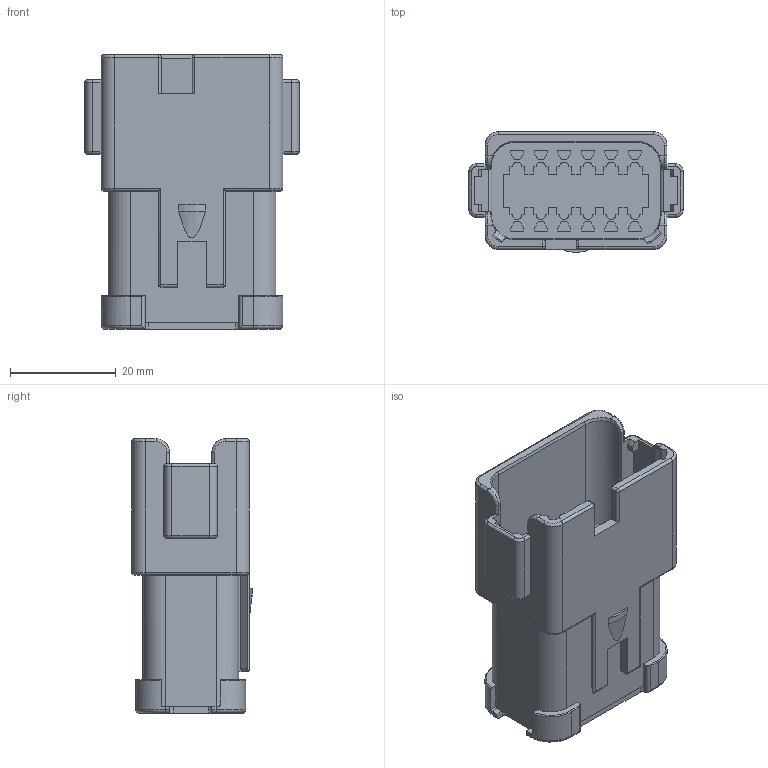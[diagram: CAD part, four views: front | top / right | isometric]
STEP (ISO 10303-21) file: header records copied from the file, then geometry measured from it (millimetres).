
FILE_DESCRIPTION((''),'2;1');
FILE_NAME('C-DT04-12PA-BE04','2013-05-13T',('workeradm'),('Tyco Electronics Ltd.'),'PRO/ENGINEER BY PARAMETRIC TECHNOLOGY CORPORATION, 2011490','PRO/ENGINEER BY PARAMETRIC TECHNOLOGY CORPORATION, 2011490','');
FILE_SCHEMA(('AUTOMOTIVE_DESIGN { 1 0 10303 214 1 1 1 1 }'));
Length unit declared in the file: millimetre
Products named in the file (1): C-DT04-12PA-BE04
Bounding box: 40.56 x 22.76 x 51.89 mm (x, y, z)
Volume: 20125.3 mm3; surface area: 10576.2 mm2
Topology: 1 solids, 1 shells, 693 faces, 1781 edges, 1124 vertices
Faces by surface type: plane 397, cylinder 169, torus 82, cone 35, bspline 8, sphere 2
Entity records: 22203 total; most frequent: CARTESIAN_POINT 4860, ORIENTED_EDGE 3562, DIRECTION 3526, EDGE_CURVE 1781, VECTOR 1256, LINE 1256, AXIS2_PLACEMENT_3D 1135, VERTEX_POINT 1124
